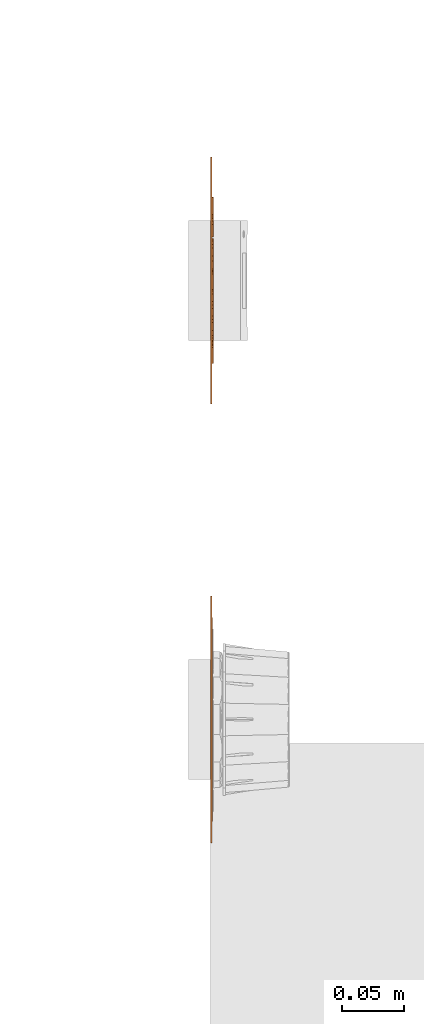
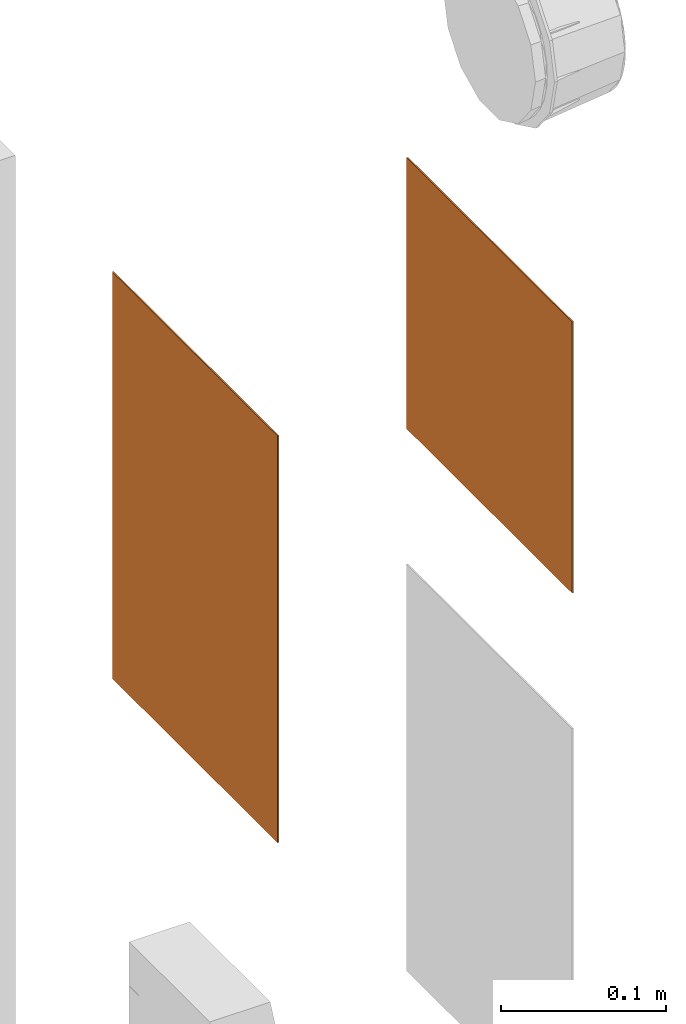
# One storey, part 71 of 119: 2 proxies.
"""IFC2X3 building model written with IfcOpenShell, lengths in metres."""

from ifc_helpers import new_model, entity, si_unit, converted_unit, derived_unit, direction, frame, frame_2d, origin, origin_2d_with_axis, place, context, subcontext, project, spatial, polyline, circle_curve, parameter, trimmed, segment, composite_curve, rectangle, circle, outline, extrude, source, transform, mapped, material, material_list, type_object, type_shapes, element, save


model = new_model("IFC2X3")

# Units and contexts
model_context = context("Model", 3, precision=1e-05, world=origin(), true_north=direction((6.12303176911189e-17, 1.0)))
body_context = subcontext(model_context, "Body", "Model", "MODEL_VIEW")
ifc_project = project(units=[si_unit("LENGTHUNIT", "METRE"), si_unit("AREAUNIT", "SQUARE_METRE"), si_unit("VOLUMEUNIT", "CUBIC_METRE"), converted_unit("PLANEANGLEUNIT", "DEGREE", entity("IfcRatioMeasure", 0.0174532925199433), si_unit("PLANEANGLEUNIT", "RADIAN"), dimensions=[0, 0, 0, 0, 0, 0, 0]), si_unit("MASSUNIT", "GRAM", prefix="KILO"), derived_unit("MASSDENSITYUNIT", [(si_unit("MASSUNIT", "GRAM", prefix="KILO"), 1), (si_unit("LENGTHUNIT", "METRE"), -3)]), derived_unit("MOMENTOFINERTIAUNIT", [(si_unit("LENGTHUNIT", "METRE"), 4)]), si_unit("TIMEUNIT", "SECOND"), si_unit("FREQUENCYUNIT", "HERTZ"), si_unit("THERMODYNAMICTEMPERATUREUNIT", "DEGREE_CELSIUS"), derived_unit("THERMALTRANSMITTANCEUNIT", [(si_unit("MASSUNIT", "GRAM", prefix="KILO"), 1), (si_unit("THERMODYNAMICTEMPERATUREUNIT", "KELVIN"), -1), (si_unit("TIMEUNIT", "SECOND"), -3)]), derived_unit("VOLUMETRICFLOWRATEUNIT", [(si_unit("LENGTHUNIT", "METRE"), 3), (si_unit("TIMEUNIT", "SECOND"), -1)]), si_unit("ELECTRICCURRENTUNIT", "AMPERE"), si_unit("ELECTRICVOLTAGEUNIT", "VOLT"), si_unit("POWERUNIT", "WATT"), si_unit("FORCEUNIT", "NEWTON", prefix="KILO"), si_unit("ILLUMINANCEUNIT", "LUX"), si_unit("LUMINOUSFLUXUNIT", "LUMEN"), si_unit("LUMINOUSINTENSITYUNIT", "CANDELA"), derived_unit("USERDEFINED", [(si_unit("MASSUNIT", "GRAM", prefix="KILO"), -1), (si_unit("LENGTHUNIT", "METRE"), -2), (si_unit("TIMEUNIT", "SECOND"), 3), (si_unit("LUMINOUSFLUXUNIT", "LUMEN"), 1)]), derived_unit("LINEARVELOCITYUNIT", [(si_unit("LENGTHUNIT", "METRE"), 1), (si_unit("TIMEUNIT", "SECOND"), -1)]), si_unit("PRESSUREUNIT", "PASCAL"), derived_unit("USERDEFINED", [(si_unit("LENGTHUNIT", "METRE"), -2), (si_unit("MASSUNIT", "GRAM", prefix="KILO"), 1), (si_unit("TIMEUNIT", "SECOND"), -2)]), derived_unit("LINEARFORCEUNIT", [(si_unit("MASSUNIT", "GRAM", prefix="KILO"), 1), (si_unit("LENGTHUNIT", "METRE"), 1), (si_unit("TIMEUNIT", "SECOND"), -2), (si_unit("LENGTHUNIT", "METRE"), -1)]), derived_unit("PLANARFORCEUNIT", [(si_unit("MASSUNIT", "GRAM", prefix="KILO"), 1), (si_unit("LENGTHUNIT", "METRE"), 1), (si_unit("TIMEUNIT", "SECOND"), -2), (si_unit("LENGTHUNIT", "METRE"), -2)])], contexts=[model_context])

# Site, building, storey
site_placement = place(None, origin())
site = spatial("IfcSite", under=ifc_project, at=site_placement, Name="Default", CompositionType="ELEMENT")
building_placement = place(site_placement, origin())
building = spatial("IfcBuilding", under=site, at=building_placement, CompositionType="ELEMENT")
storey_placement = place(building_placement, origin())
storey = spatial("IfcBuildingStorey", under=building, at=storey_placement, Name="PAV. 01 - TÉRREO", CompositionType="ELEMENT", Elevation=0.0)

# Proxies
ifc_material_1 = material(Name="Plastico branco")
ifc_material_2 = material(Name="Plastico vermelho")
ifc_material_list_1 = material_list([ifc_material_1, ifc_material_2])
building_element_proxy_type_1 = type_object("IfcBuildingElementProxyType", Name="Sinalização de equipamentos - E03 - Comando manual de alarme ou bomba de incêndio:Distância 08m", PredefinedType="NOTDEFINED", material=ifc_material_1)
shared_shape_1 = source(origin(), body_context, "Body", "SweptSolid", [
    extrude(outline(polyline([(-0.0108486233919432, -0.00904349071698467), (-0.00328343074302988, -0.00904349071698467), (6.49098100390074e-05, -0.00886064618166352), (0.00203963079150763, -0.008094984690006), (0.0034909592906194, -0.0065453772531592), (0.00407149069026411, -0.00437638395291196), (0.00337896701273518, -0.00199026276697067), (0.00149795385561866, -0.00035837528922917), (0.00383836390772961, 0.00130550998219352), (0.00465659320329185, 0.00407103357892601), (0.00406920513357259, 0.0065051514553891), (0.00246474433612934, 0.00839302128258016), (-4.25113544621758e-05, 0.00926381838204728), (-0.00454962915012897, 0.00938723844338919), (-0.0108486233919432, 0.00938723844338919), (-0.0108486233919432, -0.00904349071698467)]), holes=[polyline([(-0.00733800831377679, -0.00582542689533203), (-0.00733800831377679, -0.00172970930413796), (-0.00465933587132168, -0.00172970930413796), (-0.00168811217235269, -0.00178913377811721), (-4.02257977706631e-05, -0.00242451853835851), (-0.00149612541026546, -0.00576600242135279), (-0.00498845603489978, -0.00582542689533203), (-0.00733800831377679, -0.00582542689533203)]), polyline([(-0.00733800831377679, 0.00148835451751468), (-0.00733800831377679, 0.00616917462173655), (-0.00362626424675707, 0.00616917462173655), (-0.000874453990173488, 0.0060594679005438), (0.000583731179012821, 0.00536237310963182), (0.00114597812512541, 0.00387447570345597), (-0.00409708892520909, 0.00148835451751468), (-0.00733800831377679, 0.00148835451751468)])]), frame((-0.0562918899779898, -0.0022123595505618, 1.53648594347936), z_axis=(0.0, 1.0, 0.0), x_axis=(1.0, 0.0, 0.0)), (0.0, 0.0, 1.0), 0.0022123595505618),
    extrude(outline(polyline([(-0.00274131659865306, -0.00723537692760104), (0.00204807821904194, -0.00723537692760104), (0.00482213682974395, -0.00601174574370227), (0.00685816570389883, -0.00399502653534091), (0.00824841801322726, -0.000275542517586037), (0.00687087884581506, 0.00646330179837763), (0.00038103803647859, 0.0100380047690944), (-0.00689652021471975, 0.00889649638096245), (-0.0104736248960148, 0.00305448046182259), (-0.00911725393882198, -0.00369921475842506), (-0.00274131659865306, -0.00723537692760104)]), holes=[polyline([(-0.00200878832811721, -0.00379965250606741), (-0.00638392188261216, -0.00151705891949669), (-0.0073047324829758, 0.00249405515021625), (-0.00508828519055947, 0.00593636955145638), (-0.000139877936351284, 0.00656516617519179), (0.00422261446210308, 0.00434280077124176), (0.00508584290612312, 0.000320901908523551), (0.00288428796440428, -0.00318203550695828), (-0.00200878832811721, -0.00379965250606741)])]), frame((-0.0416947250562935, -0.0022123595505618, 1.53764997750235), z_axis=(0.0, 1.0, 0.0), x_axis=(0.172750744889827, 0.0, 0.984965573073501)), (0.0, 0.0, 1.0), 0.0022123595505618),
    extrude(outline(polyline([(-0.00835388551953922, -0.00892316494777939), (0.0100768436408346, -0.00892316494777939), (0.0100768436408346, -0.00290757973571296), (-0.00249371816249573, -3.51624106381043e-07), (0.0100768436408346, 0.0029068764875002), (0.0100768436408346, 0.00892246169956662), (-0.00835388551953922, 0.00892246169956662), (-0.00835388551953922, 0.0054118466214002), (0.00615482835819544, 0.00526557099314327), (-0.00835388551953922, 0.00205664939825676), (-0.00835388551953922, -0.00205278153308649), (0.00615482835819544, -0.00526627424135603), (-0.00835388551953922, -0.00541254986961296), (-0.00835388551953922, -0.00892316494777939)])), frame((-0.0198931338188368, -0.0022123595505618, 1.53545259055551), z_axis=(0.0, 1.0, 0.0), x_axis=(0.0, 0.0, 1.0)), (0.0, 0.0, 1.0), 0.0022123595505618),
    extrude(outline(polyline([(-0.0108486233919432, -0.00904349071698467), (-0.00328343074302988, -0.00904349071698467), (6.49098100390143e-05, -0.00886064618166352), (0.00203963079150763, -0.008094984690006), (0.00349095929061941, -0.0065453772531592), (0.00407149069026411, -0.00437638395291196), (0.00337896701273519, -0.00199026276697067), (0.00149795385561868, -0.00035837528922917), (0.00383836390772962, 0.00130550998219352), (0.00465659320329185, 0.00407103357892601), (0.00406920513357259, 0.0065051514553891), (0.00246474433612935, 0.00839302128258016), (-4.25113544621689e-05, 0.00926381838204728), (-0.00454962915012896, 0.00938723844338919), (-0.0108486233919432, 0.00938723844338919), (-0.0108486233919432, -0.00904349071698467)]), holes=[polyline([(-0.00733800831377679, -0.00582542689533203), (-0.00733800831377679, -0.00172970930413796), (-0.00465933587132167, -0.00172970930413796), (-0.00168811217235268, -0.00178913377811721), (-4.02257977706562e-05, -0.00242451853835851), (-0.00149612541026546, -0.00576600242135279), (-0.00498845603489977, -0.00582542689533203), (-0.00733800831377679, -0.00582542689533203)]), polyline([(-0.00733800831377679, 0.00148835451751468), (-0.00733800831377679, 0.00616917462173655), (-0.00362626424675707, 0.00616917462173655), (-0.00087445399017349, 0.0060594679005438), (0.000583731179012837, 0.00536237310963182), (0.00114597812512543, 0.00387447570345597), (-0.00409708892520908, 0.00148835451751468), (-0.00733800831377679, 0.00148835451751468)])]), frame((0.00338856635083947, -0.0022123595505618, 1.53648594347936), z_axis=(0.0, 1.0, 0.0), x_axis=(1.0, 0.0, 0.0)), (0.0, 0.0, 1.0), 0.0022123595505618),
    extrude(outline(polyline([(-0.00862797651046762, -0.00563161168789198), (-0.00493908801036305, -0.00563161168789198), (-0.00349461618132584, -0.00153589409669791), (0.00346718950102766, -0.00153589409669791), (0.00489337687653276, -0.00563161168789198), (0.00863254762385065, -0.00563161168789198), (0.00190386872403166, 0.0127991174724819), (-0.00183530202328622, 0.0127991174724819), (-0.00862797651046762, -0.00563161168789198)]), holes=[polyline([(-0.00237012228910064, 0.00168216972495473), (2.28555669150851e-06, 0.00841084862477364), (0.00234269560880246, 0.00168216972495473), (-0.00237012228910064, 0.00168216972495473)])]), frame((0.0178479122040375, -0.0022123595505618, 1.53273031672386), z_axis=(0.0, 1.0, 0.0), x_axis=(-1.0, 0.0, 0.0)), (0.0, 0.0, 1.0), 0.0022123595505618),
    extrude(outline(polyline([(-0.00963237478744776, -0.00923822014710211), (-0.00280770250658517, -0.00923822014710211), (0.000712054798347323, -0.00888624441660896), (0.00350043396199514, -0.00718807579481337), (0.00526716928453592, -0.00420313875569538), (0.00587284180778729, 0.000155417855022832), (0.00530602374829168, 0.00407743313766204), (0.003322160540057, 0.00733206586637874), (0.000698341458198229, 0.00880396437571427), (-0.00260657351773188, 0.00919250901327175), (-0.00963237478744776, 0.00919250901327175), (-0.00963237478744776, -0.00923822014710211)]), holes=[polyline([(-0.00612175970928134, -0.00602015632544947), (-0.00612175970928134, 0.00597444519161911), (-0.00313225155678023, 0.00597444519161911), (-0.000709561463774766, 0.00580074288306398), (0.000906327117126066, 0.00504879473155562), (0.00195539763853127, 0.00330034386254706), (0.00236222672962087, -1.82844535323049e-05), (0.00195539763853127, -0.00324091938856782), (0.000819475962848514, -0.00499622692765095), (-0.00103411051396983, -0.00584645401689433), (-0.00432074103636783, -0.00602015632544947), (-0.00612175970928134, -0.00602015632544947)])]), frame((0.0448848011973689, -0.0022123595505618, 1.53629121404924), z_axis=(0.0, 1.0, 0.0), x_axis=(1.0, 0.0, 0.0)), (0.0, 0.0, 1.0), 0.0022123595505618),
    extrude(outline(polyline([(-0.00931288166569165, -0.00799640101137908), (0.00911784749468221, -0.00799640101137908), (0.00911784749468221, 0.00575350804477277), (0.00589978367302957, 0.00575350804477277), (0.00589978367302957, -0.00448578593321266), (0.0018040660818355, -0.00448578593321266), (0.0018040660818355, 0.00516840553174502), (-0.00141399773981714, 0.00516840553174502), (-0.00141399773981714, -0.00448578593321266), (-0.00609481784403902, -0.00448578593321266), (-0.00609481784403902, 0.00604605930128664), (-0.00931288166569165, 0.00604605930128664), (-0.00931288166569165, -0.00799640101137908)])), frame((0.061679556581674, -0.0022123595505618, 1.53641158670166), z_axis=(0.0, 1.0, 0.0), x_axis=(0.0, 0.0, 1.0)), (0.0, 0.0, 1.0), 0.0022123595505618),
    extrude(rectangle(XDim=0.0022123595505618, YDim=0.00351061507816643, at=frame_2d((0.0, -4.22838847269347e-18), x_axis=(1.0, 0.0))), frame((-0.0588028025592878, -0.0011061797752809, 1.49460223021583), z_axis=(0.0, 0.0, 1.0), x_axis=(0.0, 1.0, 0.0)), (0.0, 0.0, 1.0), 0.0184307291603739),
    extrude(outline(polyline([(-0.00919708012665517, -0.00744862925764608), (0.00923364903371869, -0.00744862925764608), (0.00923364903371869, -0.00376888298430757), (-0.00317235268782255, 0.00396086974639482), (0.00923364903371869, 0.00396086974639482), (0.00923364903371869, 0.00747148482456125), (-0.00919708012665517, 0.00747148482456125), (-0.00919708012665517, 0.00367746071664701), (0.00302607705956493, -0.00393801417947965), (-0.00919708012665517, -0.00393801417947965), (-0.00919708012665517, -0.00744862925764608)])), frame((-0.046088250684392, -0.0022123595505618, 1.50379931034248), z_axis=(0.0, 1.0, 0.0), x_axis=(0.0, 0.0, 1.0)), (0.0, 0.0, 1.0), 0.0022123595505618),
    extrude(outline(polyline([(0.00431987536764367, 0.00106265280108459), (0.0080203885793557, 0.00106265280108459), (0.00679097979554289, 0.00611977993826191), (0.0025895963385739, 0.00904043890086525), (-0.00392677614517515, 0.00861545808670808), (-0.00830378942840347, 0.00297217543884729), (-0.00825825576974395, -0.00444402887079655), (-0.00308837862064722, -0.00880297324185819), (0.00280208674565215, -0.00859337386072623), (0.0057075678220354, -0.00587580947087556), (0.00256213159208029, -0.004210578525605), (0.000503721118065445, -0.0057818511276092), (-0.00230057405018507, -0.00567343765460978), (-0.00522195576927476, -0.00319871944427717), (-0.00505861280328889, 0.00160616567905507), (-0.0022796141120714, 0.00575840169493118), (0.00144185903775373, 0.00603088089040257), (0.00369975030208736, 0.00431216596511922), (0.00431987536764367, 0.00106265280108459)])), frame((-0.0268737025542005, -0.0022123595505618, 1.50399764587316), z_axis=(0.0, 1.0, 0.0), x_axis=(0.948683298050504, 0.0, -0.316227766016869)), (0.0, 0.0, 1.0), 0.0022123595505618),
    extrude(outline(polyline([(-0.00931288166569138, -0.00799640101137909), (0.00911784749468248, -0.00799640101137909), (0.00911784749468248, 0.00575350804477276), (0.00589978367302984, 0.00575350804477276), (0.00589978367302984, -0.00448578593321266), (0.00180406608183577, -0.00448578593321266), (0.00180406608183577, 0.00516840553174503), (-0.00141399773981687, 0.00516840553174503), (-0.00141399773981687, -0.00448578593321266), (-0.00609481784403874, -0.00448578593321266), (-0.00609481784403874, 0.00604605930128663), (-0.00931288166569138, 0.00604605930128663), (-0.00931288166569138, -0.00799640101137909)])), frame((-0.00867902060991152, -0.0022123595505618, 1.50391511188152), z_axis=(0.0, 1.0, 0.0), x_axis=(0.0, 0.0, 1.0)), (0.0, 0.0, 1.0), 0.0022123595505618),
    extrude(outline(polyline([(-0.00919708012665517, -0.00744862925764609), (0.00923364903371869, -0.00744862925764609), (0.00923364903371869, -0.00376888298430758), (-0.00317235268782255, 0.00396086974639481), (0.00923364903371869, 0.00396086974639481), (0.00923364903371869, 0.00747148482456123), (-0.00919708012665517, 0.00747148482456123), (-0.00919708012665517, 0.003677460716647), (0.00302607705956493, -0.00393801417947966), (-0.00919708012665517, -0.00393801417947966), (-0.00919708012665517, -0.00744862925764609)])), frame((0.00774118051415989, -0.0022123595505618, 1.50379931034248), z_axis=(0.0, 1.0, 0.0), x_axis=(0.0, 0.0, 1.0)), (0.0, 0.0, 1.0), 0.0022123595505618),
    extrude(outline(polyline([(-0.00963237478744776, -0.00923822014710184), (-0.00280770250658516, -0.00923822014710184), (0.000712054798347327, -0.00888624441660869), (0.00350043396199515, -0.00718807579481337), (0.00526716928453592, -0.00420313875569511), (0.0058728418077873, 0.000155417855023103), (0.00530602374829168, 0.00407743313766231), (0.003322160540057, 0.00733206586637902), (0.000698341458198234, 0.00880396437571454), (-0.00260657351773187, 0.00919250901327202), (-0.00963237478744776, 0.00919250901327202), (-0.00963237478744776, -0.00923822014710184)]), holes=[polyline([(-0.00612175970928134, -0.0060201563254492), (-0.00612175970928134, 0.00597444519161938), (-0.00313225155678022, 0.00597444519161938), (-0.000709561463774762, 0.00580074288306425), (0.00090632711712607, 0.00504879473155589), (0.00195539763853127, 0.00330034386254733), (0.00236222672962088, -1.82844535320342e-05), (0.00195539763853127, -0.00324091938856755), (0.000819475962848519, -0.00499622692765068), (-0.00103411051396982, -0.00584645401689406), (-0.00432074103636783, -0.0060201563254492), (-0.00612175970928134, -0.0060201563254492)])]), frame((0.0283556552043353, -0.0022123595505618, 1.5037947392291), z_axis=(0.0, 1.0, 0.0), x_axis=(1.0, 0.0, 0.0)), (0.0, 0.0, 1.0), 0.0022123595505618),
    extrude(rectangle(XDim=0.0022123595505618, YDim=0.00351061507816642, at=origin_2d_with_axis()), frame((0.0389093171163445, -0.0011061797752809, 1.49460223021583), z_axis=(0.0, 0.0, 1.0), x_axis=(0.0, 1.0, 0.0)), (0.0, 0.0, 1.0), 0.0184307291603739),
    extrude(outline(polyline([(-0.0027413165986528, -0.0072353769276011), (0.0020480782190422, -0.0072353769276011), (0.00482213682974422, -0.00601174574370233), (0.00685816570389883, -0.00399502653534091), (0.00824841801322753, -0.000275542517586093), (0.00687087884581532, 0.00646330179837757), (0.000381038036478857, 0.0100380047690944), (-0.00689652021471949, 0.0088964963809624), (-0.0104736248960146, 0.00305448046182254), (-0.00911725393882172, -0.00369921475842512), (-0.0027413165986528, -0.0072353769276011)]), holes=[polyline([(-0.00200878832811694, -0.00379965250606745), (-0.00638392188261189, -0.00151705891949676), (-0.00730473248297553, 0.00249405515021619), (-0.00508828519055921, 0.00593636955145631), (-0.000139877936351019, 0.00656516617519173), (0.00422261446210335, 0.00434280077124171), (0.00508584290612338, 0.000320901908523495), (0.00288428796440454, -0.00318203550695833), (-0.00200878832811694, -0.00379965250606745)])]), frame((0.0511902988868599, -0.0022123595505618, 1.50515350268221), z_axis=(0.0, 1.0, 0.0), x_axis=(0.172750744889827, 0.0, 0.984965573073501)), (0.0, 0.0, 1.0), 0.0022123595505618),
    extrude(outline(polyline([(-0.00331762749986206, -0.00249092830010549), (0.000995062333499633, -0.00249092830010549), (0.00269430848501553, -0.00010950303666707), (0.00127033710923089, 0.00393891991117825), (-0.000258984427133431, 0.00179563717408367), (0.0004052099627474, -0.000295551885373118), (-0.00178830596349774, -0.00034764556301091), (-0.00331762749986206, -0.00249092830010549)])), frame((-0.00979524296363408, -0.0022123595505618, 1.51574950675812), z_axis=(0.0, 1.0, 0.0), x_axis=(0.580837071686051, 0.0, 0.814019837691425)), (0.0, 0.0, 1.0), 0.0022123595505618),
    extrude(circle(Radius=0.0367452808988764, at=frame_2d((-5.36303450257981e-23, -2.70716782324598e-16), x_axis=(1.0, 0.0))), frame((0.0, -0.0011, 1.64973853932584), z_axis=(0.0, 1.0, 0.0), x_axis=(1.0, 0.0, 0.0)), (0.0, 0.0, 1.0), 0.0011),
    extrude(outline(polyline([(-0.0713787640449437, -0.075200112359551), (0.0713787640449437, -0.075200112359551), (0.0752001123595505, -0.0713787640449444), (0.0752001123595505, 0.0713787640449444), (0.0713787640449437, 0.075200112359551), (-0.0713787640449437, 0.075200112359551), (-0.0752001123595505, 0.0713787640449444), (-0.0752001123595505, -0.0713787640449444), (-0.0713787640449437, -0.075200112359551)]), holes=[composite_curve([segment(trimmed(circle_curve(origin_2d_with_axis(), 0.0583057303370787), [parameter(180.0)], [parameter(360.0)], True, "PARAMETER"), False, "CONTINUOUS"), segment(trimmed(circle_curve(origin_2d_with_axis(), 0.0583057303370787), [parameter(0.0)], [parameter(180.0)], True, "PARAMETER"), False, "CONTINUOUS")], self_intersect=False)]), frame((0.0, -0.0011, 1.64973853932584), z_axis=(0.0, 1.0, 0.0), x_axis=(1.0, 0.0, 0.0)), (0.0, 0.0, 1.0), 0.0011),
    extrude(rectangle(XDim=0.001, YDim=0.179, at=origin_2d_with_axis()), frame((0.0, -0.0005, 1.4605), z_axis=(0.0, 0.0, 1.0), x_axis=(0.0, 1.0, 0.0)), (0.0, 0.0, 1.0), 0.279),
    extrude(outline(polyline([(-0.150000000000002, -0.1), (0.150000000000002, -0.1), (0.150000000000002, 0.1), (-0.150000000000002, 0.1), (-0.150000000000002, -0.1)]), holes=[polyline([(-0.139500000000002, -0.0895000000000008), (-0.139500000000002, 0.0894999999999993), (0.139499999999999, 0.0894999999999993), (0.139499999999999, -0.0895000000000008), (-0.139500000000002, -0.0895000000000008)])]), frame((0.0, -0.001, 1.6), z_axis=(0.0, 1.0, 0.0), x_axis=(0.0, 0.0, -1.0)), (0.0, 0.0, 1.0), 0.001),
])
type_shapes(building_element_proxy_type_1, [shared_shape_1])
proxy_1_placement = place(storey_placement, frame((18.7740605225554, 28.8026853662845, 0.0), z_axis=(0.0, 0.0, 1.0), x_axis=(0.0, 1.0, 0.0)))
element("IfcBuildingElementProxy", 1, at=proxy_1_placement, inside=storey, type_object=building_element_proxy_type_1, material=ifc_material_list_1, Name="Sinalização de equipamentos - E03 - Comando manual de alarme ou bomba de incêndio:Distância 08m", ObjectType="Sinalização de equipamentos - E03 - Comando manual de alarme ou bomba de incêndio:Distância 08m", context=body_context, shape_type="MappedRepresentation", body=[
    mapped(shared_shape_1, transform((0.0, 0.0, 0.0), scale=1.0)),
])
ifc_material_list_2 = material_list([ifc_material_1, ifc_material_2])
building_element_proxy_type_2 = type_object("IfcBuildingElementProxyType", Name="Sinalização de equipamentos - E01 - Alarme sonoro:Distância 08m", PredefinedType="NOTDEFINED", material=ifc_material_1)
shared_shape_2 = source(origin(), body_context, "Body", "SweptSolid", [
    extrude(outline(polyline([(-0.0323377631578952, -0.00693625), (-0.0323377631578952, -0.072205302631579), (0.0327805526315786, -0.072205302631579), (0.0327805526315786, -0.00693625), (0.0119600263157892, -0.00693625), (0.0308021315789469, 0.0792286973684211), (-0.0310376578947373, 0.0929269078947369), (-0.0126100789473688, -0.00693625), (-0.0323377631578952, -0.00693625)]), holes=[polyline([(-0.0238399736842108, -0.0163761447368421), (0.0237363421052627, -0.0163761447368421), (0.0237363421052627, -0.0634060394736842), (-0.0238399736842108, -0.0634060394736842), (-0.0238399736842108, -0.0163761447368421)]), polyline([(0.00317960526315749, -0.00693625), (-0.00394002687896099, -0.00693625), (-0.0201846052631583, 0.0816593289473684), (0.020533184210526, 0.0725020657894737), (0.00317960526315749, -0.00693625)])]), frame((-0.0103042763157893, -0.0015, 1.95018371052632), z_axis=(0.0, -1.0, 0.0), x_axis=(0.0, 0.0, -1.0)), (0.0, 0.0, -1.0), 0.0015),
    extrude(rectangle(XDim=0.001, YDim=0.179, at=origin_2d_with_axis()), frame((0.0, -0.0005, 1.8605), z_axis=(0.0, 0.0, 1.0), x_axis=(0.0, 1.0, 0.0)), (0.0, 0.0, 1.0), 0.179),
    extrude(outline(polyline([(-0.100000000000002, -0.1), (0.100000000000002, -0.1), (0.100000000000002, 0.1), (-0.100000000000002, 0.1), (-0.100000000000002, -0.1)]), holes=[polyline([(-0.0895000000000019, -0.0895000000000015), (-0.0895000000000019, 0.0894999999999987), (0.0894999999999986, 0.0894999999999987), (0.0894999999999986, -0.0895000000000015), (-0.0895000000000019, -0.0895000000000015)])]), frame((0.0, -0.001, 1.95), z_axis=(0.0, 1.0, 0.0), x_axis=(0.0, 0.0, -1.0)), (0.0, 0.0, 1.0), 0.001),
])
type_shapes(building_element_proxy_type_2, [shared_shape_2])
proxy_2_placement = place(storey_placement, frame((18.7740605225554, 28.4468743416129, 0.0), z_axis=(0.0, 0.0, 1.0), x_axis=(0.0, 1.0, 0.0)))
element("IfcBuildingElementProxy", 2, at=proxy_2_placement, inside=storey, type_object=building_element_proxy_type_2, material=ifc_material_list_2, Name="Sinalização de equipamentos - E01 - Alarme sonoro:Distância 08m", ObjectType="Sinalização de equipamentos - E01 - Alarme sonoro:Distância 08m", context=body_context, shape_type="MappedRepresentation", body=[
    mapped(shared_shape_2, transform((0.0, 0.0, 0.0), scale=1.0)),
])

save(model, "model.ifc")
